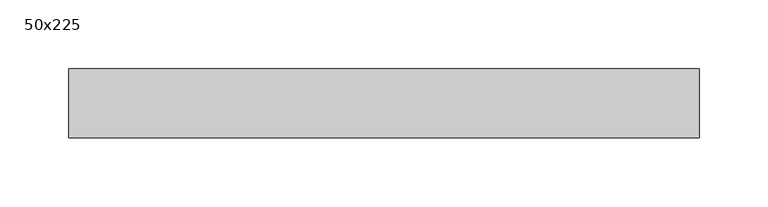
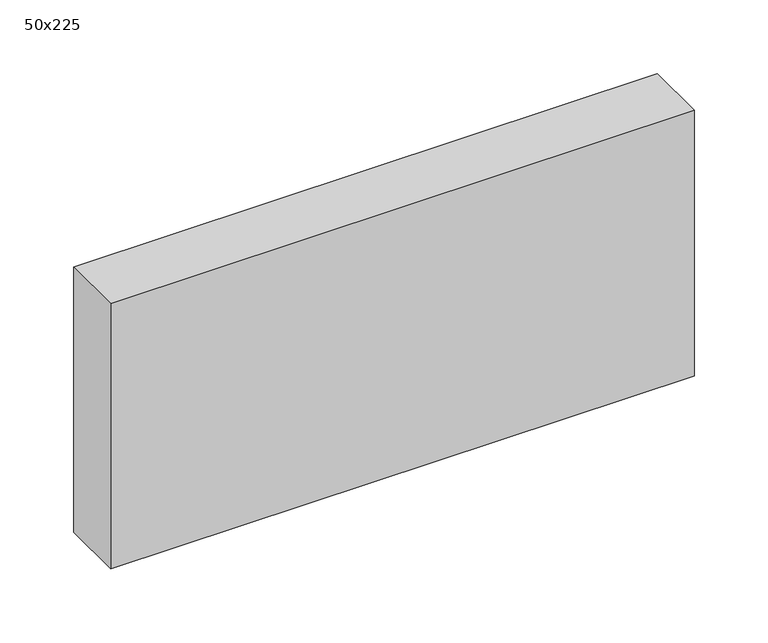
"""IFC4 building model written with IfcOpenShell, lengths in millimetres: beam geometry, Graded Timber : 50x225."""

from ifc_helpers import new_model, si_unit, frame, origin, place, context, project, spatial, polyline, outline, extrude, source, transform, mapped, element, save


def beam_50x225_69942fed(model_context):
    return source(origin(), model_context, "Body", "SweptSolid", [
        extrude(outline(polyline([(246.0, 25.0), (246.0, -25.0), (-211.0, -25.0), (-211.0, 25.0), (246.0, 25.0)])), frame((0.0, 0.0, -110.0), z_axis=(0.0, 0.0, 1.0), x_axis=(1.0, 0.0, 0.0)), (0.0, 0.0, 1.0), 220.0),
    ])


if __name__ == "__main__":
    model = new_model("IFC4")
    model_context = context("Model", 3, world=origin())
    ifc_project = project(units=[si_unit("LENGTHUNIT", "METRE", prefix="MILLI")], contexts=[model_context])
    site = spatial("IfcSite", under=ifc_project)
    building = spatial("IfcBuilding", under=site)
    placement = place(None, origin())
    beam_50x225_shape = beam_50x225_69942fed(model_context)
    element("IfcBeam", 1, ObjectType="Graded Timber : 50x225", at=placement, inside=building, context=model_context, shape_type="MappedRepresentation", body=[
        mapped(beam_50x225_shape, transform((0.0, 0.0, 0.0), x_axis=(1.0, 0.0, 0.0), y_axis=(0.0, 1.0, 0.0), z_axis=(0.0, 0.0, 1.0))),
    ])
    save(model, "model.ifc")
